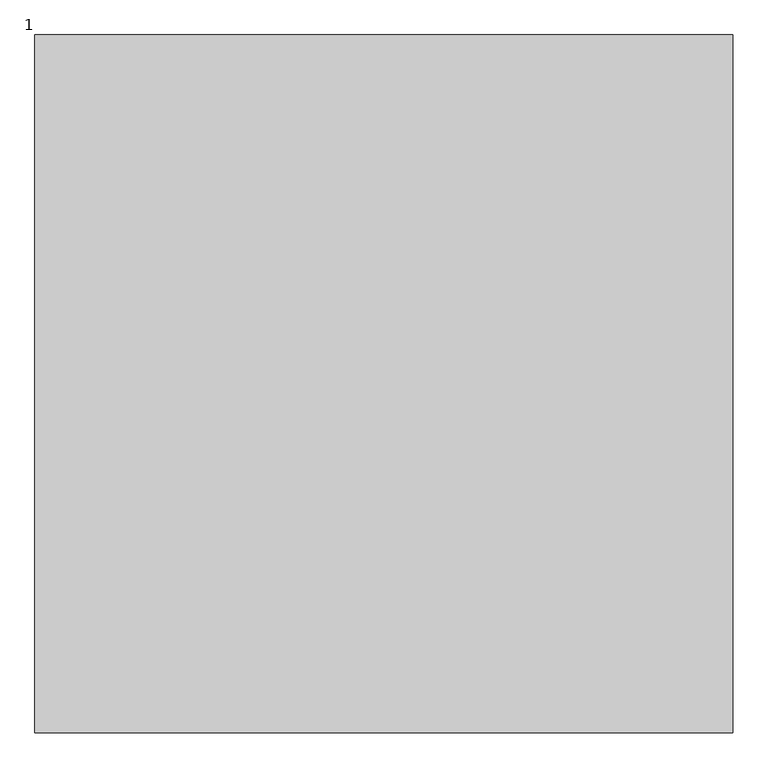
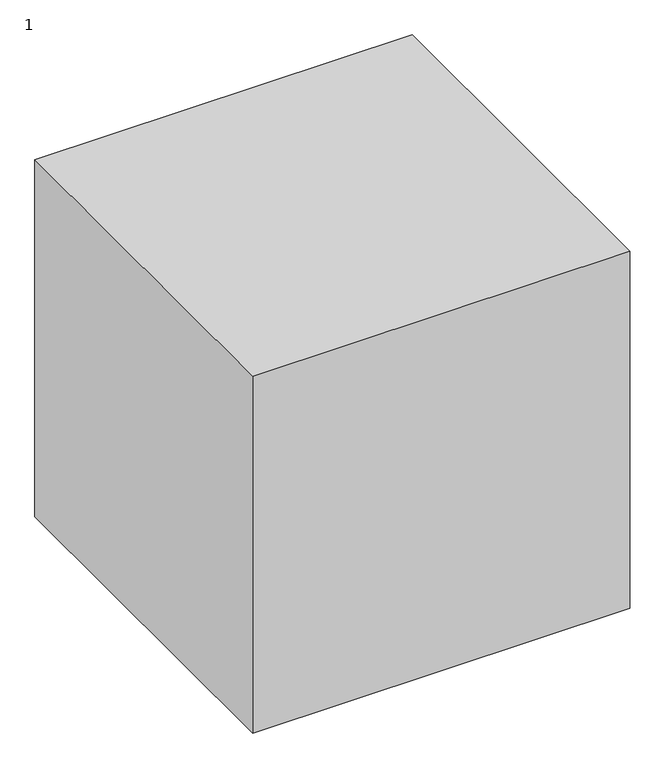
"""IFC4 building model written with IfcOpenShell, lengths in millimetres: proxy geometry, 12221211111 : 1."""

import ifcopenshell
import ifcopenshell.guid

model = None  # the IFC model being written
_history = None  # IfcOwnerHistory: only IFC2X3 demands one
_inside = {}  # id of a spatial element -> (the spatial element, [elements in it])
_under = {}  # id of a project, library or spatial element -> (it, [spatial elements below it])
_declared = {}  # id of a project -> (the project, [libraries it declares])
_typed = {}  # id of a type object -> (the type object, [elements of that type])
_made_of = {}  # id of a material, layer set ... -> (it, [elements and type objects made of it])


def new_model(schema):
    """Start an empty IFC model of exactly this schema.

    Asked for "IFC4X3", IfcOpenShell would pick the latest addendum, in which some entities
    have other attributes; the version numbers below select the first issue.
    IFC2X3 requires an IfcOwnerHistory on every rooted entity: one is made here for all.
    """
    global model, _history
    if schema == "IFC4X3":
        model = ifcopenshell.file(schema_version=(4, 3, 0, 0))
    else:
        model = ifcopenshell.file(schema=schema)
    _inside.clear()
    _under.clear()
    _declared.clear()
    _typed.clear()
    _made_of.clear()
    _history = None
    if model.schema == "IFC2X3":
        org = make("IfcOrganization", Name="unknown")
        user = make(
            "IfcPersonAndOrganization",
            ThePerson=make("IfcPerson", FamilyName="unknown"),
            TheOrganization=org,
        )
        app = make(
            "IfcApplication",
            ApplicationDeveloper=org,
            Version="unknown",
            ApplicationFullName="unknown",
            ApplicationIdentifier="unknown",
        )
        _history = make(
            "IfcOwnerHistory",
            OwningUser=user,
            OwningApplication=app,
            ChangeAction="ADDED",
            CreationDate=0,
        )
    return model


def make(cls, **values):
    """One entity of the class cls with the attributes given. An attribute that is None is left unset."""
    return model.create_entity(
        cls, **{name: value for name, value in values.items() if value is not None}
    )


def rooted(cls, **values):
    """An entity with a GlobalId (a new one), such as an element, a storey or a relation."""
    return make(cls, GlobalId=ifcopenshell.guid.new(), OwnerHistory=_history, **values)


def si_unit(unit_type, name, prefix=None):
    """IfcSIUnit, for example si_unit("LENGTHUNIT", "METRE", prefix="MILLI")."""
    return make("IfcSIUnit", UnitType=unit_type, Prefix=prefix, Name=name)


def assignment(units):
    """IfcUnitAssignment: the units of a project."""
    return None if units is None else make("IfcUnitAssignment", Units=units)


def point(xyz):
    """IfcCartesianPoint."""
    return None if xyz is None else make("IfcCartesianPoint", Coordinates=xyz)


def direction(xyz):
    """IfcDirection."""
    return None if xyz is None else make("IfcDirection", DirectionRatios=xyz)


def frame(location, z_axis=None, x_axis=None):
    """IfcAxis2Placement3D, a coordinate frame: its origin and axes. An axis left out is left unset."""
    return make(
        "IfcAxis2Placement3D",
        Location=point(location),
        Axis=direction(z_axis),
        RefDirection=direction(x_axis),
    )


def origin():
    """The frame at (0, 0, 0) with its axes left unset."""
    return frame((0.0, 0.0, 0.0))


def origin_with_axes():
    """The frame at (0, 0, 0) with the z axis (0, 0, 1) and the x axis (1, 0, 0) written out."""
    return frame((0.0, 0.0, 0.0), z_axis=(0.0, 0.0, 1.0), x_axis=(1.0, 0.0, 0.0))


def place(relative_to, where):
    """IfcLocalPlacement: puts the frame where relative to a parent placement (None: the world)."""
    return make(
        "IfcLocalPlacement", PlacementRelTo=relative_to, RelativePlacement=where
    )


def context(
    kind, dimensions, precision=None, world=None, true_north=None, identifier=None
):
    """IfcGeometricRepresentationContext, for example the 3D "Model" context."""
    return make(
        "IfcGeometricRepresentationContext",
        ContextIdentifier=identifier,
        ContextType=kind,
        CoordinateSpaceDimension=dimensions,
        Precision=precision,
        WorldCoordinateSystem=world,
        TrueNorth=true_north,
    )


def project(units=None, contexts=None):
    """IfcProject with its units and contexts."""
    return rooted(
        "IfcProject",
        Name="project",
        RepresentationContexts=contexts,
        UnitsInContext=assignment(units),
    )


def spatial(cls, under=None, at=None, **own):
    """A site, building, storey or space (cls), placed at a placement, below another one or the project."""
    s = rooted(cls, ObjectPlacement=at, **own)
    if under is not None:
        _under.setdefault(under.id(), (under, []))[1].append(s)
    return s


def polyline(points):
    """IfcPolyline through the points."""
    return make("IfcPolyline", Points=[point(p) for p in points])


def outline(outer, holes=None, kind="AREA"):
    """IfcArbitraryClosedProfileDef: a profile drawn as a closed curve; with holes, ...WithVoids."""
    if holes is None:
        return make("IfcArbitraryClosedProfileDef", ProfileType=kind, OuterCurve=outer)
    return make(
        "IfcArbitraryProfileDefWithVoids",
        ProfileType=kind,
        OuterCurve=outer,
        InnerCurves=holes,
    )


def extrude(swept, where, along, depth):
    """IfcExtrudedAreaSolid: the profile swept, set in the frame where, extruded along a direction by depth."""
    return make(
        "IfcExtrudedAreaSolid",
        SweptArea=swept,
        Position=where,
        ExtrudedDirection=direction(along),
        Depth=depth,
    )


def shape(context_of_items, identifier, shape_type, items):
    """IfcShapeRepresentation: the items that make up one representation, for example the "Body"."""
    return make(
        "IfcShapeRepresentation",
        ContextOfItems=context_of_items,
        RepresentationIdentifier=identifier,
        RepresentationType=shape_type,
        Items=items,
    )


def source(mapping_origin, context_of_items, identifier, shape_type, items):
    """IfcRepresentationMap: a shape defined once, which mapped items show again and again."""
    return make(
        "IfcRepresentationMap",
        MappingOrigin=mapping_origin,
        MappedRepresentation=shape(context_of_items, identifier, shape_type, items),
    )


def transform(
    local_origin,
    x_axis=None,
    y_axis=None,
    z_axis=None,
    scale=None,
    scale2=None,
    scale3=None,
    uniform=True,
):
    """IfcCartesianTransformationOperator3D, or its non-uniform kind. x_axis, y_axis, z_axis: its Axis1, 2, 3."""
    if uniform:
        return make(
            "IfcCartesianTransformationOperator3D",
            Axis1=direction(x_axis),
            Axis2=direction(y_axis),
            LocalOrigin=point(local_origin),
            Scale=scale,
            Axis3=direction(z_axis),
        )
    return make(
        "IfcCartesianTransformationOperator3DnonUniform",
        Axis1=direction(x_axis),
        Axis2=direction(y_axis),
        LocalOrigin=point(local_origin),
        Scale=scale,
        Axis3=direction(z_axis),
        Scale2=scale2,
        Scale3=scale3,
    )


def mapped(mapping_source, mapping_target):
    """IfcMappedItem: shows the shape of a source again, moved by a transform."""
    return make(
        "IfcMappedItem", MappingSource=mapping_source, MappingTarget=mapping_target
    )


def made_of(thing, what):
    """Note that an element or type object is made of a material, layer set ...; save() writes the relation."""
    if what is not None:
        _made_of.setdefault(what.id(), (what, []))[1].append(thing)
    return thing


def element(
    cls,
    number,
    at=None,
    inside=None,
    cuts=None,
    type_object=None,
    material=None,
    context=None,
    identifier="Body",
    shape_type=None,
    held_by="IfcProductDefinitionShape",
    body=None,
    shapes=None,
    **own,
):
    """One element of the class cls, such as IfcWall. Its Tag is "e" and its number.

    at: its placement. inside: the storey or other place that contains it. cuts: it is an
    opening in that element (IfcRelVoidsElement). A single representation is given by context,
    identifier, shape_type and body (its items); several are given by shapes. held_by: the class
    of the entity that holds the representations. save() writes the other relations.
    """
    e = rooted(cls, Tag="e%d" % number, ObjectPlacement=at, **own)
    if body is not None:
        shapes = [shape(context, identifier, shape_type, body)]
    if shapes is not None:
        e.Representation = make(held_by, Representations=shapes)
    if inside is not None:
        _inside.setdefault(inside.id(), (inside, []))[1].append(e)
    if cuts is not None:
        rooted(
            "IfcRelVoidsElement", RelatingBuildingElement=cuts, RelatedOpeningElement=e
        )
    if type_object is not None:
        _typed.setdefault(type_object.id(), (type_object, []))[1].append(e)
    return made_of(e, material)


def aggregate(whole, parts):
    """IfcRelAggregates: a whole, such as a stair, and the parts it consists of."""
    return rooted("IfcRelAggregates", RelatingObject=whole, RelatedObjects=parts)


def save(model, path):
    """Write the relations noted so far, then the file.

    IfcRelAggregates (storeys below a building ...), IfcRelContainedInSpatialStructure (elements
    in a storey), IfcRelDefinesByType, IfcRelAssociatesMaterial and IfcRelDeclares: one each for
    every whole, place, type object, material and project.
    """
    for whole, parts in _under.values():
        aggregate(whole, parts)
    for where, things in _inside.values():
        rooted(
            "IfcRelContainedInSpatialStructure",
            RelatedElements=things,
            RelatingStructure=where,
        )
    for kind, things in _typed.values():
        rooted("IfcRelDefinesByType", RelatedObjects=things, RelatingType=kind)
    for what, things in _made_of.values():
        rooted("IfcRelAssociatesMaterial", RelatedObjects=things, RelatingMaterial=what)
    for by, libraries in _declared.values():
        rooted("IfcRelDeclares", RelatingContext=by, RelatedDefinitions=libraries)
    model.write(path)


def proxy_1_d886f2ce(model_context):
    return source(origin(), model_context, "Body", "SweptSolid", [
        extrude(outline(polyline([(-8307.9756708, -12664.7705528), (-8307.9756708, -13664.7705528), (-9307.9756708, -13664.7705528), (-9307.9756708, -12664.7705528), (-8307.9756708, -12664.7705528)])), origin_with_axes(), (0.0, 0.0, 1.0), 1000.0),
    ])


if __name__ == "__main__":
    model = new_model("IFC4")
    model_context = context("Model", 3, world=origin())
    ifc_project = project(units=[si_unit("LENGTHUNIT", "METRE", prefix="MILLI")], contexts=[model_context])
    site = spatial("IfcSite", under=ifc_project)
    building = spatial("IfcBuilding", under=site)
    placement = place(None, origin())
    proxy_1_shape = proxy_1_d886f2ce(model_context)
    element("IfcBuildingElementProxy", 1, Name="12221211111 : 1", ObjectType="12221211111 : 1", at=placement, inside=building, context=model_context, shape_type="MappedRepresentation", body=[
        mapped(proxy_1_shape, transform((0.0, 0.0, 0.0), x_axis=(1.0, 0.0, 0.0), y_axis=(0.0, 1.0, 0.0), z_axis=(0.0, 0.0, 1.0))),
    ])
    save(model, "model.ifc")
